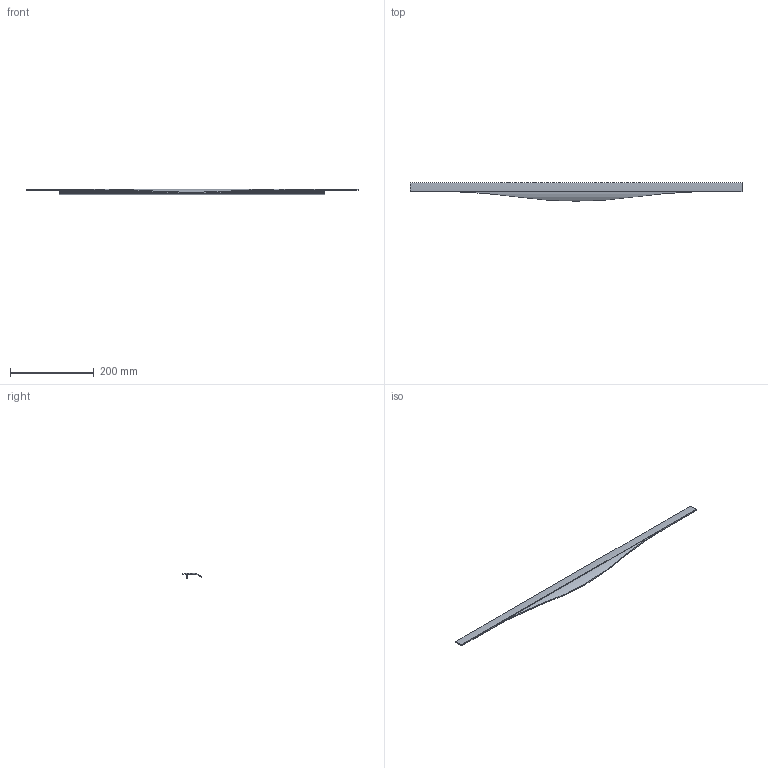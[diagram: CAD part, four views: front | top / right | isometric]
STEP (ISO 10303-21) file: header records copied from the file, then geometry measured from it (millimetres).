
FILE_DESCRIPTION( ( 'STEP AP214' ), '1' );
FILE_NAME( 'C:/Users/swati/Desktop/04-03-2016/9210060/9210060.stp', ' ', ( ' ' ), ( ' ' ), 'PSStep 15.0.47', 'PARTsolutions', ' ' );
FILE_SCHEMA( ( 'AUTOMOTIVE_DESIGN { 1 0 10303 214 1 1 1 1 }' ) );
Length unit declared in the file: millimetre
Products named in the file (2): 95 ; _
Assembly tree (1 placements, depth 2):
  95 
    _
Bounding box: 795 x 43.67 x 14 mm (x, y, z)
Volume: 75957.7 mm3; surface area: 68769.5 mm2
Topology: 1 solids, 1 shells, 32 faces, 87 edges, 58 vertices
Faces by surface type: plane 25, cylinder 7
Entity records: 1351 total; most frequent: CARTESIAN_POINT 255, ORIENTED_EDGE 174, DIRECTION 153, EDGE_CURVE 87, LINE 73, VECTOR 73, VERTEX_POINT 58, AXIS2_PLACEMENT_3D 40
